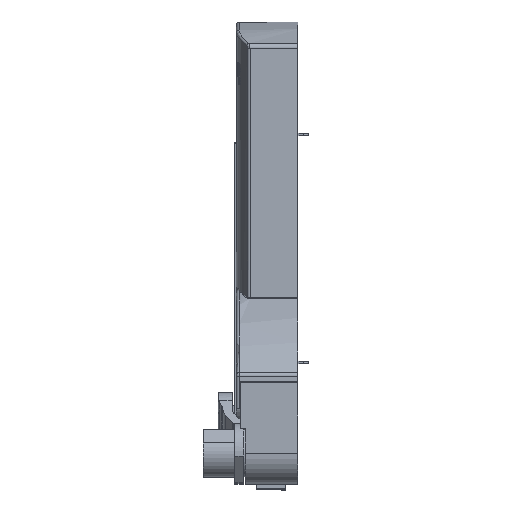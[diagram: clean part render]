
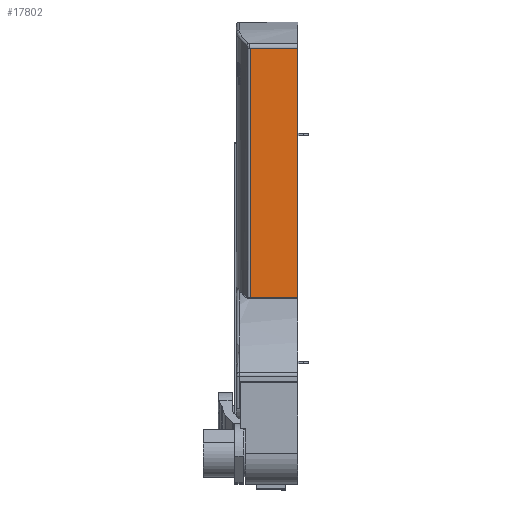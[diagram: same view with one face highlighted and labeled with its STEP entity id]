
A CAD part, top view. The second image highlights one B-rep face of the part: STEP entity #17802.
In plain terms, the highlighted planar face has unit normal (0, 0, 1).
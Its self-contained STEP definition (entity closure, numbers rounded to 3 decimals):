
#145 = LINE ( 'NONE', #146, #19932 ) ;
#146 = CARTESIAN_POINT ( 'NONE',  ( 0., 101.957, 24.257 ) ) ;
#153 = DIRECTION ( 'NONE',  ( 0., -1., 0. ) ) ;
#722 = CARTESIAN_POINT ( 'NONE',  ( 0., 68.229, 24.257 ) ) ;
#3475 = AXIS2_PLACEMENT_3D ( 'NONE', #4551, #4562, #4563 ) ;
#4551 = CARTESIAN_POINT ( 'NONE',  ( -53., 101.957, 24.257 ) ) ;
#4558 = FACE_OUTER_BOUND ( 'NONE', #7147, .T. ) ;
#4559 = PLANE ( 'NONE',  #3475 ) ;
#4562 = DIRECTION ( 'NONE',  ( 0., 0., -1. ) ) ;
#4563 = DIRECTION ( 'NONE',  ( 0., 1., 0. ) ) ;
#5878 = CARTESIAN_POINT ( 'NONE',  ( -26.858, 208.25, 24.257 ) ) ;
#5881 = CARTESIAN_POINT ( 'NONE',  ( -26.858, 68.229, 24.257 ) ) ;
#7147 = EDGE_LOOP ( 'NONE', ( #18205, #18206, #10469, #10470 ) ) ;
#10469 = ORIENTED_EDGE ( 'NONE', *, *, #12487, .F. ) ;
#10470 = ORIENTED_EDGE ( 'NONE', *, *, #12488, .F. ) ;
#12486 = EDGE_CURVE ( 'NONE', #16425, #13007, #19467, .T. ) ;
#12487 = EDGE_CURVE ( 'NONE', #16428, #16425, #19465, .T. ) ;
#12488 = EDGE_CURVE ( 'NONE', #14523, #16428, #19477, .T. ) ;
#13007 = VERTEX_POINT ( 'NONE', #15415 ) ;
#13525 = EDGE_CURVE ( 'NONE', #13007, #14523, #145, .T. ) ;
#14523 = VERTEX_POINT ( 'NONE', #722 ) ;
#15415 = CARTESIAN_POINT ( 'NONE',  ( 0., 208.25, 24.257 ) ) ;
#16425 = VERTEX_POINT ( 'NONE', #5878 ) ;
#16428 = VERTEX_POINT ( 'NONE', #5881 ) ;
#17802 = ADVANCED_FACE ( 'NONE', ( #4558 ), #4559, .F. ) ;
#18205 = ORIENTED_EDGE ( 'NONE', *, *, #13525, .F. ) ;
#18206 = ORIENTED_EDGE ( 'NONE', *, *, #12486, .F. ) ;
#19465 = LINE ( 'NONE', #19475, #19729 ) ;
#19467 = LINE ( 'NONE', #19473, #19727 ) ;
#19473 = CARTESIAN_POINT ( 'NONE',  ( -53., 208.25, 24.257 ) ) ;
#19474 = DIRECTION ( 'NONE',  ( 1., 0., 0. ) ) ;
#19475 = CARTESIAN_POINT ( 'NONE',  ( -26.858, 101.957, 24.257 ) ) ;
#19476 = DIRECTION ( 'NONE',  ( 0., 1., 0. ) ) ;
#19477 = LINE ( 'NONE', #19478, #19730 ) ;
#19478 = CARTESIAN_POINT ( 'NONE',  ( -26.858, 68.229, 24.257 ) ) ;
#19479 = DIRECTION ( 'NONE',  ( -1., 0., 0. ) ) ;
#19727 = VECTOR ( 'NONE', #19474, 1000. ) ;
#19729 = VECTOR ( 'NONE', #19476, 1000. ) ;
#19730 = VECTOR ( 'NONE', #19479, 1000. ) ;
#19932 = VECTOR ( 'NONE', #153, 1000. ) ;
